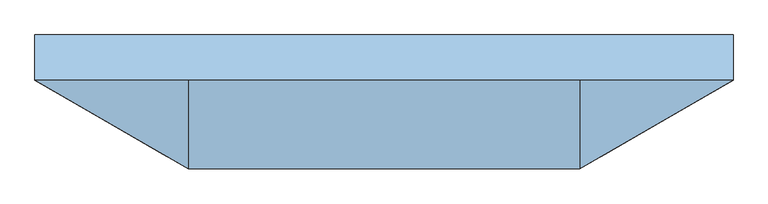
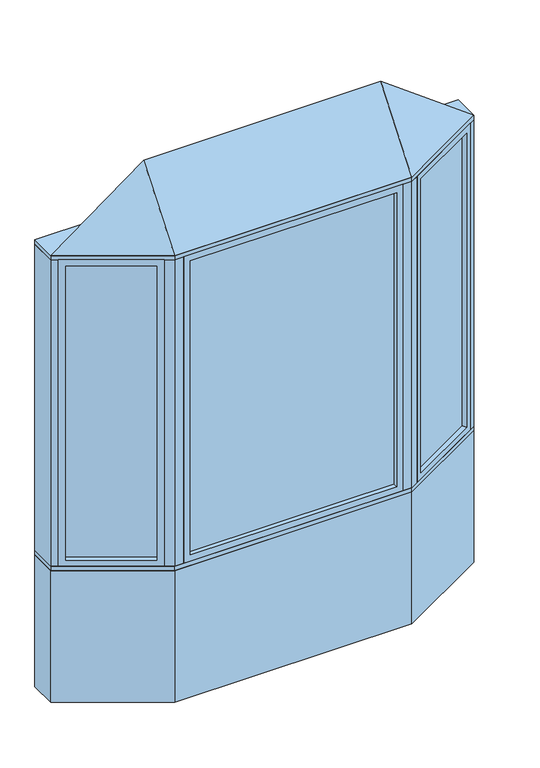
"""IFC4 building model written with IfcOpenShell, lengths in millimetres: window geometry, Pollard_Windows_Tudor Casement Bows and Bays : AML-BAY 30 AFR0618-12-500."""

from ifc_helpers import new_model, si_unit, frame, origin, origin_with_axes, place, context, project, spatial, polyline, outline, extrude, faceted_brep, source, transform, mapped, element, save


def window_d2643ceb(model_context):
    return source(origin(), model_context, "Body", "SolidModel", [
        extrude(outline(polyline([(1113.112102, -82.0482469), (710.2320119, -314.6511754), (707.6920119, -310.2517664), (1110.572102, -77.6488379), (1113.112102, -82.0482469)])), frame((0.0, 0.0, 823.1628), z_axis=(0.0, 0.0, 1.0), x_axis=(1.0, 0.0, 0.0)), (0.0, 0.0, 1.0), 1753.6704),
        faceted_brep([(1102.1135794, -88.3982469, 835.8628), (1114.8135794, -110.3952922, 835.8628), (1114.8135794, -110.3952922, 2564.1332), (1102.1135794, -88.3982469, 2564.1332), (1110.572102, -77.6488379, 823.1628), (1113.112102, -82.0482469, 823.1628), (1113.112102, -82.0482469, 2576.8332), (1110.572102, -77.6488379, 2576.8332), (1086.8735794, -62.0017926, 835.8628), (1099.5735794, -83.9988379, 835.8628), (1099.5735794, -83.9988379, 2564.1332), (1086.8735794, -62.0017926, 2564.1332), (1145.8734073, -92.4628922, 799.998), (1117.9334073, -44.0693926, 799.998), (1117.9334073, -44.0693926, 2599.998), (1145.8734073, -92.4628922, 2599.998), (733.9305346, -330.2982207, 2564.1332), (721.2305346, -308.3011754, 2564.1332), (710.2320119, -314.6511754, 2576.8332), (707.6920119, -310.2517664, 2576.8332), (718.6905346, -303.9017664, 2564.1332), (705.9905346, -281.9047211, 2564.1332), (674.9307067, -299.8371211, 2599.998), (702.8707067, -348.2306207, 2599.998), (733.9305346, -330.2982207, 835.8628), (721.2305346, -308.3011754, 835.8628), (710.2320119, -314.6511754, 823.1628), (707.6920119, -310.2517664, 823.1628), (718.6905346, -303.9017664, 835.8628), (705.9905346, -281.9047211, 835.8628), (674.9307067, -299.8371211, 799.998), (702.8707067, -348.2306207, 799.998)], [[[0, 1, 2, 3]], [[4, 5, 6, 7]], [[8, 9, 10, 11]], [[12, 13, 14, 15]], [[3, 2, 16, 17]], [[7, 6, 18, 19]], [[11, 10, 20, 21]], [[15, 14, 22, 23]], [[17, 16, 24, 25]], [[19, 18, 26, 27]], [[21, 20, 28, 29]], [[23, 22, 30, 31]], [[25, 24, 1, 0]], [[5, 26, 18, 6], [3, 17, 25, 0]], [[27, 26, 5, 4]], [[7, 19, 27, 4], [9, 28, 20, 10]], [[29, 28, 9, 8]], [[13, 30, 22, 14], [11, 21, 29, 8]], [[31, 30, 13, 12]], [[15, 23, 31, 12], [1, 24, 16, 2]]]),
        extrude(outline(polyline([(-710.2320119, -314.6511754), (-1113.112102, -82.0482469), (-1110.572102, -77.6488379), (-707.6920119, -310.2517664), (-710.2320119, -314.6511754)])), frame((0.0, 0.0, 823.1628), z_axis=(0.0, 0.0, 1.0), x_axis=(1.0, 0.0, 0.0)), (0.0, 0.0, 1.0), 1753.6704),
        faceted_brep([(-718.6905346, -303.9017664, 2564.1332), (-705.9905346, -281.9047211, 2564.1332), (-705.9905346, -281.9047211, 835.8628), (-718.6905346, -303.9017664, 835.8628), (-710.2320119, -314.6511754, 2576.8332), (-707.6920119, -310.2517664, 2576.8332), (-707.6920119, -310.2517664, 823.1628), (-710.2320119, -314.6511754, 823.1628), (-733.9305346, -330.2982207, 2564.1332), (-721.2305346, -308.3011754, 2564.1332), (-721.2305346, -308.3011754, 835.8628), (-733.9305346, -330.2982207, 835.8628), (-674.9307067, -299.8371211, 2599.998), (-702.8707067, -348.2306207, 2599.998), (-702.8707067, -348.2306207, 799.998), (-674.9307067, -299.8371211, 799.998), (-1086.8735794, -62.0017926, 835.8628), (-1099.5735794, -83.9988379, 835.8628), (-1110.572102, -77.6488379, 823.1628), (-1113.112102, -82.0482469, 823.1628), (-1102.1135794, -88.3982469, 835.8628), (-1114.8135794, -110.3952922, 835.8628), (-1145.8734073, -92.4628922, 799.998), (-1117.9334073, -44.0693926, 799.998), (-1086.8735794, -62.0017926, 2564.1332), (-1099.5735794, -83.9988379, 2564.1332), (-1110.572102, -77.6488379, 2576.8332), (-1113.112102, -82.0482469, 2576.8332), (-1102.1135794, -88.3982469, 2564.1332), (-1114.8135794, -110.3952922, 2564.1332), (-1145.8734073, -92.4628922, 2599.998), (-1117.9334073, -44.0693926, 2599.998)], [[[0, 1, 2, 3]], [[4, 5, 6, 7]], [[8, 9, 10, 11]], [[12, 13, 14, 15]], [[3, 2, 16, 17]], [[7, 6, 18, 19]], [[11, 10, 20, 21]], [[15, 14, 22, 23]], [[17, 16, 24, 25]], [[19, 18, 26, 27]], [[21, 20, 28, 29]], [[23, 22, 30, 31]], [[15, 23, 31, 12], [1, 24, 16, 2]], [[25, 24, 1, 0]], [[5, 26, 18, 6], [3, 17, 25, 0]], [[27, 26, 5, 4]], [[7, 19, 27, 4], [9, 28, 20, 10]], [[29, 28, 9, 8]], [[13, 30, 22, 14], [11, 21, 29, 8]], [[31, 30, 13, 12]]]),
        extrude(outline(polyline([(586.4046365, -347.8306207), (-586.4046365, -347.8306207), (-586.4046365, -342.7506207), (586.4046365, -342.7506207), (586.4046365, -347.8306207)])), frame((0.0, 0.0, 823.1628), z_axis=(0.0, 0.0, 1.0), x_axis=(1.0, 0.0, 0.0)), (0.0, 0.0, 1.0), 1753.6704),
        faceted_brep([(573.7046365, -347.8306207, 835.8628), (573.7046365, -373.2306207, 835.8628), (573.7046365, -373.2306207, 2564.1332), (573.7046365, -347.8306207, 2564.1332), (586.4046365, -342.7506207, 823.1628), (586.4046365, -347.8306207, 823.1628), (586.4046365, -347.8306207, 2576.8332), (586.4046365, -342.7506207, 2576.8332), (573.7046365, -317.3506207, 835.8628), (573.7046365, -342.7506207, 835.8628), (573.7046365, -342.7506207, 2564.1332), (573.7046365, -317.3506207, 2564.1332), (609.5694365, -373.2306207, 799.998), (609.5694365, -317.3506207, 799.998), (609.5694365, -317.3506207, 2599.998), (609.5694365, -373.2306207, 2599.998), (-573.7046365, -373.2306207, 2564.1332), (-573.7046365, -347.8306207, 2564.1332), (-586.4046365, -347.8306207, 2576.8332), (-586.4046365, -342.7506207, 2576.8332), (-573.7046365, -342.7506207, 2564.1332), (-573.7046365, -317.3506207, 2564.1332), (-609.5694365, -317.3506207, 2599.998), (-609.5694365, -373.2306207, 2599.998), (-573.7046365, -373.2306207, 835.8628), (-573.7046365, -347.8306207, 835.8628), (-586.4046365, -347.8306207, 823.1628), (-586.4046365, -342.7506207, 823.1628), (-573.7046365, -342.7506207, 835.8628), (-573.7046365, -317.3506207, 835.8628), (-609.5694365, -317.3506207, 799.998), (-609.5694365, -373.2306207, 799.998)], [[[0, 1, 2, 3]], [[4, 5, 6, 7]], [[8, 9, 10, 11]], [[12, 13, 14, 15]], [[3, 2, 16, 17]], [[7, 6, 18, 19]], [[11, 10, 20, 21]], [[15, 14, 22, 23]], [[17, 16, 24, 25]], [[19, 18, 26, 27]], [[21, 20, 28, 29]], [[23, 22, 30, 31]], [[15, 23, 31, 12], [1, 24, 16, 2]], [[25, 24, 1, 0]], [[5, 26, 18, 6], [3, 17, 25, 0]], [[27, 26, 5, 4]], [[7, 19, 27, 4], [9, 28, 20, 10]], [[29, 28, 9, 8]], [[13, 30, 22, 14], [11, 21, 29, 8]], [[31, 30, 13, 12]]]),
        faceted_brep([(1176.5, -74.7806207, 2625.398), (659.5694365, -373.2306207, 2625.398), (-659.5694365, -373.2306207, 2625.398), (-1176.5, -74.7806207, 2625.398), (-659.5694365, -74.7806207, 3006.398), (659.5694365, -74.7806207, 3006.398)], [[[0, 1, 2, 3]], [[3, 2, 4]], [[2, 1, 5, 4]], [[1, 0, 5]], [[0, 3, 4, 5]]]),
        extrude(outline(polyline([(-1176.5, 77.6193793), (1176.5, 77.6193793), (1176.5, -74.7806207), (659.5694365, -373.2306207), (-659.5694365, -373.2306207), (-1176.5, -74.7806207), (-1176.5, 77.6193793)])), frame((0.0, 0.0, 2599.998), z_axis=(0.0, 0.0, 1.0), x_axis=(1.0, 0.0, 0.0)), (0.0, 0.0, 1.0), 25.4),
        extrude(outline(polyline([(-1176.5, -74.7806207), (-1176.5, 77.6193793), (-1135.6645431, 77.6193793), (-1135.6645431, -74.7806207), (-1145.8734073, -92.4628922), (-1176.5, -74.7806207)])), frame((0.0, 0.0, 799.998), z_axis=(0.0, 0.0, 1.0), x_axis=(1.0, 0.0, 0.0)), (0.0, 0.0, 1.0), 1800.0),
        extrude(outline(polyline([(1176.5, 77.6193793), (1176.5, -74.7806207), (1145.8734073, -92.4628922), (1135.6645431, -74.7806207), (1135.6645431, 77.6193793), (1176.5, 77.6193793)])), frame((0.0, 0.0, 799.998), z_axis=(0.0, 0.0, 1.0), x_axis=(1.0, 0.0, 0.0)), (0.0, 0.0, 1.0), 1800.0),
        extrude(outline(polyline([(659.5694365, -373.2306207), (609.5694365, -373.2306207), (609.5694365, -323.2306207), (646.1719769, -323.2306207), (677.8707067, -304.9293505), (702.8707067, -348.2306207), (659.5694365, -373.2306207)])), frame((0.0, 0.0, 799.998), z_axis=(0.0, 0.0, 1.0), x_axis=(1.0, 0.0, 0.0)), (0.0, 0.0, 1.0), 1800.0),
        extrude(outline(polyline([(-659.5694365, -373.2306207), (-702.8707067, -348.2306207), (-677.8707067, -304.9293505), (-646.1719769, -323.2306207), (-609.5694365, -323.2306207), (-609.5694365, -373.2306207), (-659.5694365, -373.2306207)])), frame((0.0, 0.0, 799.998), z_axis=(0.0, 0.0, 1.0), x_axis=(1.0, 0.0, 0.0)), (0.0, 0.0, 1.0), 1800.0),
        extrude(outline(polyline([(-659.5694365, -373.2306207), (-1176.5, -74.7806207), (-1176.5, 77.6193793), (-1135.6645431, 77.6193793), (-618.7339796, -220.8306207), (618.7339796, -220.8306207), (1135.6645431, 77.6193793), (1176.5, 77.6193793), (1176.5, -74.7806207), (659.5694365, -373.2306207), (-659.5694365, -373.2306207)])), frame((0.0, 0.0, 774.598), z_axis=(0.0, 0.0, 1.0), x_axis=(1.0, 0.0, 0.0)), (0.0, 0.0, 1.0), 25.4),
        extrude(outline(polyline([(-1176.5, -74.7806207), (-1176.5, 77.6193793), (-1135.6645431, 77.6193793), (-618.7339796, -220.8306207), (618.7339796, -220.8306207), (1135.6645431, 77.6193793), (1176.5, 77.6193793), (1176.5, -74.7806207), (659.5694365, -373.2306207), (-659.5694365, -373.2306207), (-1176.5, -74.7806207)])), origin_with_axes(), (0.0, 0.0, 1.0), 774.598),
    ])


if __name__ == "__main__":
    model = new_model("IFC4")
    model_context = context("Model", 3, world=origin())
    ifc_project = project(units=[si_unit("LENGTHUNIT", "METRE", prefix="MILLI")], contexts=[model_context])
    site = spatial("IfcSite", under=ifc_project)
    building = spatial("IfcBuilding", under=site)
    placement = place(None, origin())
    window_shape = window_d2643ceb(model_context)
    element("IfcWindow", 1, ObjectType="Pollard_Windows_Tudor Casement Bows and Bays : AML-BAY 30 AFR0618-12-500", at=placement, inside=building, context=model_context, shape_type="MappedRepresentation", body=[
        mapped(window_shape, transform((0.0, 0.0, 0.0), x_axis=(1.0, 0.0, 0.0), y_axis=(0.0, 1.0, 0.0), z_axis=(0.0, 0.0, 1.0))),
    ])
    save(model, "model.ifc")
